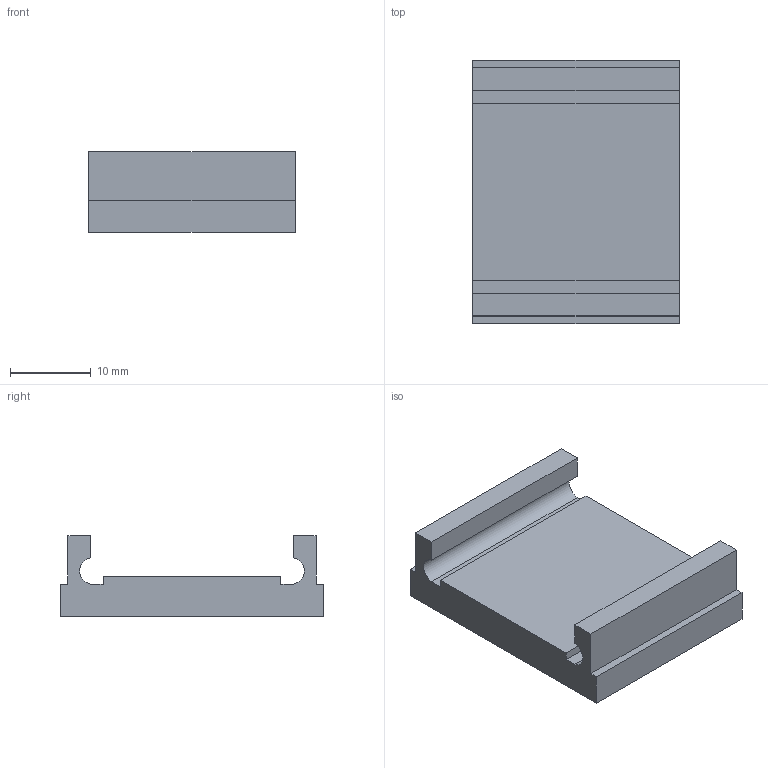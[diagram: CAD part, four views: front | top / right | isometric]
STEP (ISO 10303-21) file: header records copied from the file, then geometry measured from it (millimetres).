
FILE_DESCRIPTION(/* description */ (''),/* implementation_level */ '2;1');
FILE_NAME(/* name */ 'C:/Users/HIRSCH/Desktop/MagClampAO.step',/* time_stamp */ '2022-07-18T22:04:14+02:00',/* author */ (''),/* organization */ (''),/* preprocessor_version */ 'ST-DEVELOPER v18.1',/* originating_system */ 'Autodesk Translation Framework v10.13.0.1454',/* authorisation */ '');
FILE_SCHEMA (('AUTOMOTIVE_DESIGN { 1 0 10303 214 3 1 1 }'));
Length unit declared in the file: millimetre
Products named in the file (1): MagBaseAutoOrdnance
Bounding box: 25.5 x 32.6 x 10 mm (x, y, z)
Volume: 4572.8 mm3; surface area: 2957.5 mm2
Topology: 1 solids, 1 shells, 20 faces, 54 edges, 36 vertices
Faces by surface type: plane 18, cylinder 2
Entity records: 655 total; most frequent: CARTESIAN_POINT 111, ORIENTED_EDGE 108, DIRECTION 100, EDGE_CURVE 54, LINE 50, VECTOR 50, VERTEX_POINT 36, AXIS2_PLACEMENT_3D 25
